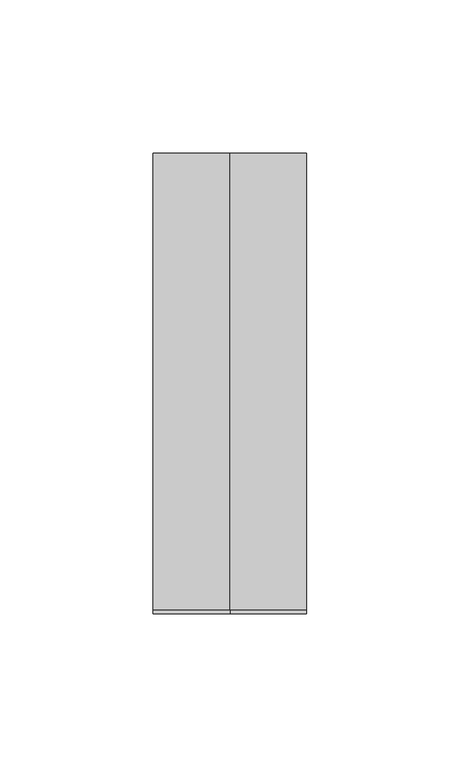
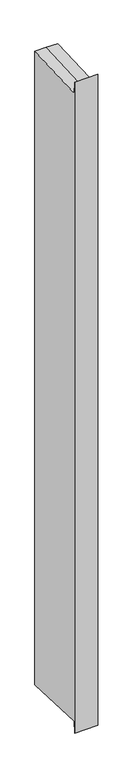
"""IFC4 building model written with IfcOpenShell, lengths in millimetres: member geometry, Прямоугольный импост : 50 x 150 мм."""

import ifcopenshell
import ifcopenshell.guid

model = None  # the IFC model being written
_history = None  # IfcOwnerHistory: only IFC2X3 demands one
_inside = {}  # id of a spatial element -> (the spatial element, [elements in it])
_under = {}  # id of a project, library or spatial element -> (it, [spatial elements below it])
_declared = {}  # id of a project -> (the project, [libraries it declares])
_typed = {}  # id of a type object -> (the type object, [elements of that type])
_made_of = {}  # id of a material, layer set ... -> (it, [elements and type objects made of it])


def new_model(schema):
    """Start an empty IFC model of exactly this schema.

    Asked for "IFC4X3", IfcOpenShell would pick the latest addendum, in which some entities
    have other attributes; the version numbers below select the first issue.
    IFC2X3 requires an IfcOwnerHistory on every rooted entity: one is made here for all.
    """
    global model, _history
    if schema == "IFC4X3":
        model = ifcopenshell.file(schema_version=(4, 3, 0, 0))
    else:
        model = ifcopenshell.file(schema=schema)
    _inside.clear()
    _under.clear()
    _declared.clear()
    _typed.clear()
    _made_of.clear()
    _history = None
    if model.schema == "IFC2X3":
        org = make("IfcOrganization", Name="unknown")
        user = make(
            "IfcPersonAndOrganization",
            ThePerson=make("IfcPerson", FamilyName="unknown"),
            TheOrganization=org,
        )
        app = make(
            "IfcApplication",
            ApplicationDeveloper=org,
            Version="unknown",
            ApplicationFullName="unknown",
            ApplicationIdentifier="unknown",
        )
        _history = make(
            "IfcOwnerHistory",
            OwningUser=user,
            OwningApplication=app,
            ChangeAction="ADDED",
            CreationDate=0,
        )
    return model


def make(cls, **values):
    """One entity of the class cls with the attributes given. An attribute that is None is left unset."""
    return model.create_entity(
        cls, **{name: value for name, value in values.items() if value is not None}
    )


def rooted(cls, **values):
    """An entity with a GlobalId (a new one), such as an element, a storey or a relation."""
    return make(cls, GlobalId=ifcopenshell.guid.new(), OwnerHistory=_history, **values)


def si_unit(unit_type, name, prefix=None):
    """IfcSIUnit, for example si_unit("LENGTHUNIT", "METRE", prefix="MILLI")."""
    return make("IfcSIUnit", UnitType=unit_type, Prefix=prefix, Name=name)


def assignment(units):
    """IfcUnitAssignment: the units of a project."""
    return None if units is None else make("IfcUnitAssignment", Units=units)


def point(xyz):
    """IfcCartesianPoint."""
    return None if xyz is None else make("IfcCartesianPoint", Coordinates=xyz)


def direction(xyz):
    """IfcDirection."""
    return None if xyz is None else make("IfcDirection", DirectionRatios=xyz)


def frame(location, z_axis=None, x_axis=None):
    """IfcAxis2Placement3D, a coordinate frame: its origin and axes. An axis left out is left unset."""
    return make(
        "IfcAxis2Placement3D",
        Location=point(location),
        Axis=direction(z_axis),
        RefDirection=direction(x_axis),
    )


def origin():
    """The frame at (0, 0, 0) with its axes left unset."""
    return frame((0.0, 0.0, 0.0))


def place(relative_to, where):
    """IfcLocalPlacement: puts the frame where relative to a parent placement (None: the world)."""
    return make(
        "IfcLocalPlacement", PlacementRelTo=relative_to, RelativePlacement=where
    )


def context(
    kind, dimensions, precision=None, world=None, true_north=None, identifier=None
):
    """IfcGeometricRepresentationContext, for example the 3D "Model" context."""
    return make(
        "IfcGeometricRepresentationContext",
        ContextIdentifier=identifier,
        ContextType=kind,
        CoordinateSpaceDimension=dimensions,
        Precision=precision,
        WorldCoordinateSystem=world,
        TrueNorth=true_north,
    )


def project(units=None, contexts=None):
    """IfcProject with its units and contexts."""
    return rooted(
        "IfcProject",
        Name="project",
        RepresentationContexts=contexts,
        UnitsInContext=assignment(units),
    )


def spatial(cls, under=None, at=None, **own):
    """A site, building, storey or space (cls), placed at a placement, below another one or the project."""
    s = rooted(cls, ObjectPlacement=at, **own)
    if under is not None:
        _under.setdefault(under.id(), (under, []))[1].append(s)
    return s


def faces_of(points, faces, orient=None, outer=None):
    """IfcFace entities. A face is a list of loops; a loop is a list of indices into points, from 0.

    orient and outer hold one flag for each loop. By default every Orientation is true, the
    first loop of a face is its IfcFaceOuterBound and the others are IfcFaceBound.
    """
    made = []
    for i, loops in enumerate(faces):
        bounds = []
        for j, loop in enumerate(loops):
            is_outer = j == 0 if outer is None else outer[i][j]
            bounds.append(
                make(
                    "IfcFaceOuterBound" if is_outer else "IfcFaceBound",
                    Bound=make("IfcPolyLoop", Polygon=[points[k] for k in loop]),
                    Orientation=True if orient is None else orient[i][j],
                )
            )
        made.append(make("IfcFace", Bounds=bounds))
    return made


def faceted_brep(points, faces, orient=None, outer=None, voids=None):
    """IfcFacetedBrep: a solid bounded by flat faces; with voids (closed shells), ...WithVoids."""
    shared = [point(p) for p in points]
    hull = make("IfcClosedShell", CfsFaces=faces_of(shared, faces, orient, outer))
    if voids is None:
        return make("IfcFacetedBrep", Outer=hull)
    return make(
        "IfcFacetedBrepWithVoids",
        Outer=hull,
        Voids=[
            make(cls, CfsFaces=faces_of(shared, fs, o, b)) for cls, fs, o, b in voids
        ],
    )


def shape(context_of_items, identifier, shape_type, items):
    """IfcShapeRepresentation: the items that make up one representation, for example the "Body"."""
    return make(
        "IfcShapeRepresentation",
        ContextOfItems=context_of_items,
        RepresentationIdentifier=identifier,
        RepresentationType=shape_type,
        Items=items,
    )


def source(mapping_origin, context_of_items, identifier, shape_type, items):
    """IfcRepresentationMap: a shape defined once, which mapped items show again and again."""
    return make(
        "IfcRepresentationMap",
        MappingOrigin=mapping_origin,
        MappedRepresentation=shape(context_of_items, identifier, shape_type, items),
    )


def transform(
    local_origin,
    x_axis=None,
    y_axis=None,
    z_axis=None,
    scale=None,
    scale2=None,
    scale3=None,
    uniform=True,
):
    """IfcCartesianTransformationOperator3D, or its non-uniform kind. x_axis, y_axis, z_axis: its Axis1, 2, 3."""
    if uniform:
        return make(
            "IfcCartesianTransformationOperator3D",
            Axis1=direction(x_axis),
            Axis2=direction(y_axis),
            LocalOrigin=point(local_origin),
            Scale=scale,
            Axis3=direction(z_axis),
        )
    return make(
        "IfcCartesianTransformationOperator3DnonUniform",
        Axis1=direction(x_axis),
        Axis2=direction(y_axis),
        LocalOrigin=point(local_origin),
        Scale=scale,
        Axis3=direction(z_axis),
        Scale2=scale2,
        Scale3=scale3,
    )


def mapped(mapping_source, mapping_target):
    """IfcMappedItem: shows the shape of a source again, moved by a transform."""
    return make(
        "IfcMappedItem", MappingSource=mapping_source, MappingTarget=mapping_target
    )


def made_of(thing, what):
    """Note that an element or type object is made of a material, layer set ...; save() writes the relation."""
    if what is not None:
        _made_of.setdefault(what.id(), (what, []))[1].append(thing)
    return thing


def element(
    cls,
    number,
    at=None,
    inside=None,
    cuts=None,
    type_object=None,
    material=None,
    context=None,
    identifier="Body",
    shape_type=None,
    held_by="IfcProductDefinitionShape",
    body=None,
    shapes=None,
    **own,
):
    """One element of the class cls, such as IfcWall. Its Tag is "e" and its number.

    at: its placement. inside: the storey or other place that contains it. cuts: it is an
    opening in that element (IfcRelVoidsElement). A single representation is given by context,
    identifier, shape_type and body (its items); several are given by shapes. held_by: the class
    of the entity that holds the representations. save() writes the other relations.
    """
    e = rooted(cls, Tag="e%d" % number, ObjectPlacement=at, **own)
    if body is not None:
        shapes = [shape(context, identifier, shape_type, body)]
    if shapes is not None:
        e.Representation = make(held_by, Representations=shapes)
    if inside is not None:
        _inside.setdefault(inside.id(), (inside, []))[1].append(e)
    if cuts is not None:
        rooted(
            "IfcRelVoidsElement", RelatingBuildingElement=cuts, RelatedOpeningElement=e
        )
    if type_object is not None:
        _typed.setdefault(type_object.id(), (type_object, []))[1].append(e)
    return made_of(e, material)


def aggregate(whole, parts):
    """IfcRelAggregates: a whole, such as a stair, and the parts it consists of."""
    return rooted("IfcRelAggregates", RelatingObject=whole, RelatedObjects=parts)


def save(model, path):
    """Write the relations noted so far, then the file.

    IfcRelAggregates (storeys below a building ...), IfcRelContainedInSpatialStructure (elements
    in a storey), IfcRelDefinesByType, IfcRelAssociatesMaterial and IfcRelDeclares: one each for
    every whole, place, type object, material and project.
    """
    for whole, parts in _under.values():
        aggregate(whole, parts)
    for where, things in _inside.values():
        rooted(
            "IfcRelContainedInSpatialStructure",
            RelatedElements=things,
            RelatingStructure=where,
        )
    for kind, things in _typed.values():
        rooted("IfcRelDefinesByType", RelatedObjects=things, RelatingType=kind)
    for what, things in _made_of.values():
        rooted("IfcRelAssociatesMaterial", RelatedObjects=things, RelatingMaterial=what)
    for by, libraries in _declared.values():
        rooted("IfcRelDeclares", RelatingContext=by, RelatedDefinitions=libraries)
    model.write(path)


def member_0095feae(model_context):
    return source(origin(), model_context, "Body", "Brep", [
        faceted_brep([(-25.0, 75.0, 3.3563625), (0.0, 75.0, 3.3563625), (25.0, 75.0, 3.3563625), (25.0, 75.0, -1453.3563625), (0.0, 75.0, -1453.3563625), (-25.0, 75.0, -1453.3563625), (-25.0, -75.0, 23.3099767), (-25.0, -73.7977635, -3.3529557), (-25.0, -73.7977635, -1446.6470443), (-25.0, -75.0, -1473.3099767), (25.0, -75.0, 23.3099767), (0.0, -75.0, 23.3099767), (0.0, -75.0, -1473.3099767), (25.0, -75.0, -1473.3099767), (25.0, -73.7977635, -3.3529557), (25.0, -73.7977635, -1446.6470443), (0.0, -73.7977635, -3.3529557), (0.0, -73.7977635, -1446.6470443)], [[[0, 1, 2, 3, 4, 5]], [[6, 7, 0, 5, 8, 9]], [[10, 11, 6, 9, 12, 13]], [[2, 14, 10, 13, 15, 3]], [[2, 1, 16, 14]], [[1, 0, 7, 16]], [[7, 6, 11, 16]], [[11, 10, 14, 16]], [[3, 15, 17, 4]], [[15, 13, 12, 17]], [[12, 9, 8, 17]], [[8, 5, 4, 17]]]),
    ])


if __name__ == "__main__":
    model = new_model("IFC4")
    model_context = context("Model", 3, world=origin())
    ifc_project = project(units=[si_unit("LENGTHUNIT", "METRE", prefix="MILLI")], contexts=[model_context])
    site = spatial("IfcSite", under=ifc_project)
    building = spatial("IfcBuilding", under=site)
    placement = place(None, origin())
    member_shape = member_0095feae(model_context)
    element("IfcMember", 1, ObjectType="Прямоугольный импост : 50 x 150 мм", at=placement, inside=building, context=model_context, shape_type="MappedRepresentation", body=[
        mapped(member_shape, transform((0.0, 0.0, 0.0), x_axis=(1.0, 0.0, 0.0), y_axis=(0.0, 1.0, 0.0), z_axis=(0.0, 0.0, 1.0))),
    ])
    save(model, "model.ifc")
